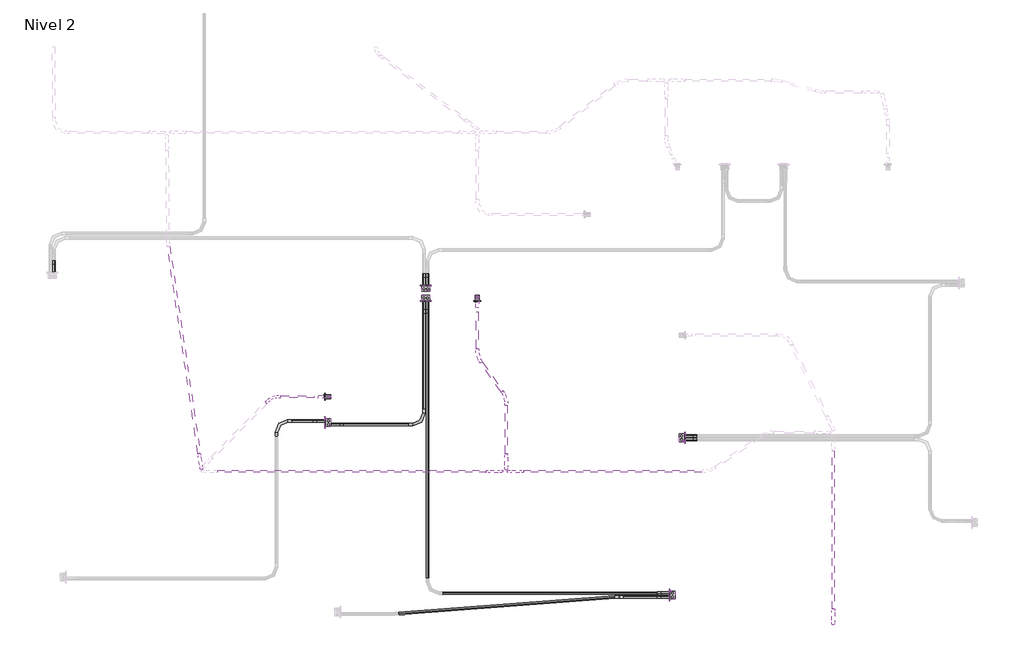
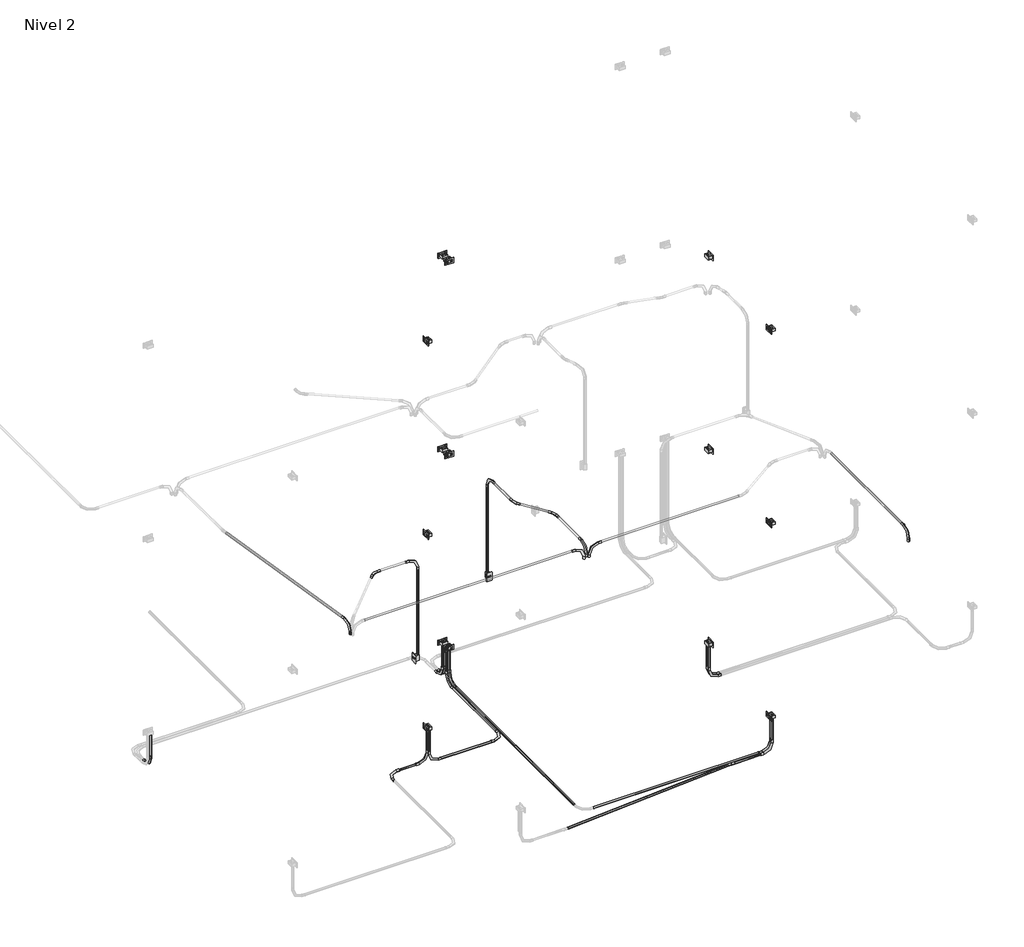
# One storey, part 2 of 10: 28 cable carrier segments, 24 cable carrier fittings, 15 proxies, 2 switching devices.
"""IFC4 building model written with IfcOpenShell, lengths in millimetres."""

from ifc_helpers import new_model, si_unit, point, frame, frame_2d, origin, place, context, project, spatial, circle_curve, trimmed, segment, composite_curve, outline, extrude, transform, mapped, element, save
from components import gfci_180f1b41, m_codo_de_tubo_extremo_liso_pvc_9da73e12, m_codo_de_tubo_extremo_liso_pvc_e945fc89, m_codo_de_tubo_extremo_liso_pvc_102f0f41, m_codo_de_tubo_extremo_liso_pvc_1309d5ab, m_codo_de_tubo_extremo_liso_pvc_280a536f, m_codo_de_tubo_extremo_liso_pvc_f7d6bdcc, switching_device_22fed34b

model = new_model("IFC4")

# Units and contexts
model_context = context("Model", 3, world=origin())
ifc_project = project(units=[si_unit("LENGTHUNIT", "METRE", prefix="MILLI")], contexts=[model_context])

# Site, building, storey
site = spatial("IfcSite", under=ifc_project)
building = spatial("IfcBuilding", under=site)
storey = spatial("IfcBuildingStorey", under=building, Name="Nivel 2", Elevation=2800.0)

# Proxies
placement = place(None, origin())
gfci_shape = gfci_180f1b41(model_context)
element("IfcBuildingElementProxy", 1, Name="Tomacorriente doble 220V : GFCI", ObjectType="Tomacorriente doble 220V : GFCI", at=placement, inside=storey, context=model_context, shape_type="MappedRepresentation", body=[
    mapped(gfci_shape, transform((3741.3351924, 3885.0, 3200.0), x_axis=(0.0, 0.0, 1.0), y_axis=(1.0, 0.0, 0.0), z_axis=(0.0, 1.0, 0.0))),
])
element("IfcBuildingElementProxy", 2, Name="Tomacorriente doble 220V : GFCI", ObjectType="Tomacorriente doble 220V : GFCI", at=placement, inside=storey, context=model_context, shape_type="MappedRepresentation", body=[
    mapped(gfci_shape, transform((3741.7015222, 3735.0, 3200.0), x_axis=(0.0, 0.0, 1.0), y_axis=(-1.0, 0.0, 0.0), z_axis=(0.0, -1.0, 0.0))),
])
element("IfcBuildingElementProxy", 3, Name="Tomacorriente doble 220V : GFCI", ObjectType="Tomacorriente doble 220V : GFCI", at=placement, inside=storey, context=model_context, shape_type="MappedRepresentation", body=[
    mapped(gfci_shape, transform((2735.0, 2514.1638581, 3200.0), x_axis=(0.0, 0.0, 1.0), y_axis=(0.0, 1.0, 0.0), z_axis=(-1.0, 0.0, 0.0))),
])
element("IfcBuildingElementProxy", 4, Name="Tomacorriente doble 220V : GFCI", ObjectType="Tomacorriente doble 220V : GFCI", at=placement, inside=storey, context=model_context, shape_type="MappedRepresentation", body=[
    mapped(gfci_shape, transform((6185.0, 787.0336791, 3200.0), x_axis=(0.0, 0.0, 1.0), y_axis=(0.0, 1.0, 0.0), z_axis=(-1.0, 0.0, 0.0))),
])
element("IfcBuildingElementProxy", 5, Name="Tomacorriente doble 220V : GFCI", ObjectType="Tomacorriente doble 220V : GFCI", at=placement, inside=storey, context=model_context, shape_type="MappedRepresentation", body=[
    mapped(gfci_shape, transform((6335.0, 2362.5600961, 3200.0), x_axis=(0.0, 0.0, 1.0), y_axis=(0.0, -1.0, 0.0), z_axis=(1.0, 0.0, 0.0))),
])
element("IfcBuildingElementProxy", 6, Name="Tomacorriente doble 220V : GFCI", ObjectType="Tomacorriente doble 220V : GFCI", at=placement, inside=storey, context=model_context, shape_type="MappedRepresentation", body=[
    mapped(gfci_shape, transform((3741.3351924, 3885.0, 5850.0), x_axis=(0.0, 0.0, 1.0), y_axis=(1.0, 0.0, 0.0), z_axis=(0.0, 1.0, 0.0))),
])
element("IfcBuildingElementProxy", 7, Name="Tomacorriente doble 220V : GFCI", ObjectType="Tomacorriente doble 220V : GFCI", at=placement, inside=storey, context=model_context, shape_type="MappedRepresentation", body=[
    mapped(gfci_shape, transform((3741.7015222, 3735.0, 5850.0), x_axis=(0.0, 0.0, 1.0), y_axis=(-1.0, 0.0, 0.0), z_axis=(0.0, -1.0, 0.0))),
])
element("IfcBuildingElementProxy", 8, Name="Tomacorriente doble 220V : GFCI", ObjectType="Tomacorriente doble 220V : GFCI", at=placement, inside=storey, context=model_context, shape_type="MappedRepresentation", body=[
    mapped(gfci_shape, transform((2735.0, 2514.1638581, 5850.0), x_axis=(0.0, 0.0, 1.0), y_axis=(0.0, 1.0, 0.0), z_axis=(-1.0, 0.0, 0.0))),
])
element("IfcBuildingElementProxy", 9, Name="Tomacorriente doble 220V : GFCI", ObjectType="Tomacorriente doble 220V : GFCI", at=placement, inside=storey, context=model_context, shape_type="MappedRepresentation", body=[
    mapped(gfci_shape, transform((6185.0, 787.0336791, 5850.0), x_axis=(0.0, 0.0, 1.0), y_axis=(0.0, 1.0, 0.0), z_axis=(-1.0, 0.0, 0.0))),
])
element("IfcBuildingElementProxy", 10, Name="Tomacorriente doble 220V : GFCI", ObjectType="Tomacorriente doble 220V : GFCI", at=placement, inside=storey, context=model_context, shape_type="MappedRepresentation", body=[
    mapped(gfci_shape, transform((6335.0, 2362.5600961, 5850.0), x_axis=(0.0, 0.0, 1.0), y_axis=(0.0, -1.0, 0.0), z_axis=(1.0, 0.0, 0.0))),
])
element("IfcBuildingElementProxy", 11, Name="Tomacorriente doble 220V : GFCI", ObjectType="Tomacorriente doble 220V : GFCI", at=placement, inside=storey, context=model_context, shape_type="MappedRepresentation", body=[
    mapped(gfci_shape, transform((3741.3351924, 3885.0, 8500.0), x_axis=(0.0, 0.0, 1.0), y_axis=(1.0, 0.0, 0.0), z_axis=(0.0, 1.0, 0.0))),
])
element("IfcBuildingElementProxy", 12, Name="Tomacorriente doble 220V : GFCI", ObjectType="Tomacorriente doble 220V : GFCI", at=placement, inside=storey, context=model_context, shape_type="MappedRepresentation", body=[
    mapped(gfci_shape, transform((3741.7015222, 3735.0, 8500.0), x_axis=(0.0, 0.0, 1.0), y_axis=(-1.0, 0.0, 0.0), z_axis=(0.0, -1.0, 0.0))),
])
element("IfcBuildingElementProxy", 13, Name="Tomacorriente doble 220V : GFCI", ObjectType="Tomacorriente doble 220V : GFCI", at=placement, inside=storey, context=model_context, shape_type="MappedRepresentation", body=[
    mapped(gfci_shape, transform((2735.0, 2514.1638581, 8500.0), x_axis=(0.0, 0.0, 1.0), y_axis=(0.0, 1.0, 0.0), z_axis=(-1.0, 0.0, 0.0))),
])
element("IfcBuildingElementProxy", 14, Name="Tomacorriente doble 220V : GFCI", ObjectType="Tomacorriente doble 220V : GFCI", at=placement, inside=storey, context=model_context, shape_type="MappedRepresentation", body=[
    mapped(gfci_shape, transform((6185.0, 787.0336791, 8500.0), x_axis=(0.0, 0.0, 1.0), y_axis=(0.0, 1.0, 0.0), z_axis=(-1.0, 0.0, 0.0))),
])
element("IfcBuildingElementProxy", 15, Name="Tomacorriente doble 220V : GFCI", ObjectType="Tomacorriente doble 220V : GFCI", at=placement, inside=storey, context=model_context, shape_type="MappedRepresentation", body=[
    mapped(gfci_shape, transform((6335.0, 2362.5600961, 8500.0), x_axis=(0.0, 0.0, 1.0), y_axis=(0.0, -1.0, 0.0), z_axis=(1.0, 0.0, 0.0))),
])

# Cable carrier fittings
m_codo_de_tubo_extremo_liso_pvc_shape = m_codo_de_tubo_extremo_liso_pvc_9da73e12(model_context)
element("IfcCableCarrierFitting", 16, ObjectType="M_Codo de tubo - Extremo liso - PVC : CODO POTENCIA", at=placement, inside=storey, context=model_context, shape_type="MappedRepresentation", body=[
    mapped(m_codo_de_tubo_extremo_liso_pvc_shape, transform((6305.3628882, 2344.5282763, 2730.0), x_axis=(0.0, 0.0, -1.0), y_axis=(1.0, 0.0, 0.0), z_axis=(0.0, -1.0, 0.0))),
])
element("IfcCableCarrierFitting", 17, ObjectType="M_Codo de tubo - Extremo liso - PVC : CODO POTENCIA", at=placement, inside=storey, context=model_context, shape_type="MappedRepresentation", body=[
    mapped(m_codo_de_tubo_extremo_liso_pvc_shape, transform((6305.3628882, 2380.5919159, 2730.0), x_axis=(0.0, 0.0, -1.0), y_axis=(1.0, 0.0, 0.0), z_axis=(0.0, -1.0, 0.0))),
])
element("IfcCableCarrierFitting", 18, ObjectType="M_Codo de tubo - Extremo liso - PVC : CODO POTENCIA", at=placement, inside=storey, context=model_context, shape_type="MappedRepresentation", body=[
    mapped(m_codo_de_tubo_extremo_liso_pvc_shape, transform((17.0761068, 3985.3628882, 2730.0), x_axis=(0.0, 0.0, -1.0), y_axis=(0.0, 1.0, 0.0), z_axis=(1.0, 0.0, 0.0))),
])
element("IfcCableCarrierFitting", 19, ObjectType="M_Codo de tubo - Extremo liso - PVC : CODO POTENCIA", at=placement, inside=storey, context=model_context, shape_type="MappedRepresentation", body=[
    mapped(m_codo_de_tubo_extremo_liso_pvc_shape, transform((3759.3670122, 3855.3628882, 2730.0), x_axis=(0.0, 0.0, -1.0), y_axis=(0.0, 1.0, 0.0), z_axis=(1.0, 0.0, 0.0))),
])
element("IfcCableCarrierFitting", 20, ObjectType="M_Codo de tubo - Extremo liso - PVC : CODO POTENCIA", at=placement, inside=storey, context=model_context, shape_type="MappedRepresentation", body=[
    mapped(m_codo_de_tubo_extremo_liso_pvc_shape, transform((3723.3033726, 3855.3628882, 2730.0), x_axis=(0.0, 0.0, -1.0), y_axis=(0.0, 1.0, 0.0), z_axis=(1.0, 0.0, 0.0))),
])
element("IfcCableCarrierFitting", 21, ObjectType="M_Codo de tubo - Extremo liso - PVC : CODO POTENCIA", at=placement, inside=storey, context=model_context, shape_type="MappedRepresentation", body=[
    mapped(m_codo_de_tubo_extremo_liso_pvc_shape, transform((3759.7333421, 3764.6371118, 2730.0), x_axis=(0.0, 0.0, -1.0), y_axis=(0.0, -1.0, 0.0), z_axis=(-1.0, 0.0, 0.0))),
])
element("IfcCableCarrierFitting", 22, ObjectType="M_Codo de tubo - Extremo liso - PVC : CODO POTENCIA", at=placement, inside=storey, context=model_context, shape_type="MappedRepresentation", body=[
    mapped(m_codo_de_tubo_extremo_liso_pvc_shape, transform((3723.6697024, 3764.6371118, 2730.0), x_axis=(0.0, 0.0, -1.0), y_axis=(0.0, -1.0, 0.0), z_axis=(-1.0, 0.0, 0.0))),
])
element("IfcCableCarrierFitting", 23, ObjectType="M_Codo de tubo - Extremo liso - PVC : CODO POTENCIA", at=placement, inside=storey, context=model_context, shape_type="MappedRepresentation", body=[
    mapped(m_codo_de_tubo_extremo_liso_pvc_shape, transform((6214.6371118, 769.0018593, 2730.0), x_axis=(0.0, 0.0, -1.0), y_axis=(-1.0, 0.0, 0.0), z_axis=(0.0, 1.0, 0.0))),
])
element("IfcCableCarrierFitting", 24, ObjectType="M_Codo de tubo - Extremo liso - PVC : CODO POTENCIA", at=placement, inside=storey, context=model_context, shape_type="MappedRepresentation", body=[
    mapped(m_codo_de_tubo_extremo_liso_pvc_shape, transform((2764.6371118, 2532.1956779, 2730.0), x_axis=(0.0, 0.0, -1.0), y_axis=(-1.0, 0.0, 0.0), z_axis=(0.0, 1.0, 0.0))),
])
element("IfcCableCarrierFitting", 25, ObjectType="M_Codo de tubo - Extremo liso - PVC : CODO POTENCIA", at=placement, inside=storey, context=model_context, shape_type="MappedRepresentation", body=[
    mapped(m_codo_de_tubo_extremo_liso_pvc_shape, transform((6214.6371118, 805.065499, 2730.0), x_axis=(0.0, 0.0, -1.0), y_axis=(-1.0, 0.0, 0.0), z_axis=(0.0, 1.0, 0.0))),
])
element("IfcCableCarrierFitting", 26, ObjectType="M_Codo de tubo - Extremo liso - PVC : CODO POTENCIA", at=placement, inside=storey, context=model_context, shape_type="MappedRepresentation", body=[
    mapped(m_codo_de_tubo_extremo_liso_pvc_shape, transform((2245.3628882, 2532.1956779, 2730.0), x_axis=(-1.0, 0.0, 0.0), y_axis=(0.0, -1.0, 0.0), z_axis=(0.0, 0.0, 1.0))),
])
element("IfcCableCarrierFitting", 27, ObjectType="M_Codo de tubo - Extremo liso - PVC : CODO POTENCIA", at=placement, inside=storey, context=model_context, shape_type="MappedRepresentation", body=[
    mapped(m_codo_de_tubo_extremo_liso_pvc_shape, transform((3723.6697024, 2496.1320383, 2730.0), x_axis=(1.0, 0.0, 0.0), y_axis=(0.0, 1.0, 0.0), z_axis=(0.0, 0.0, 1.0))),
])
element("IfcCableCarrierFitting", 28, ObjectType="M_Codo de tubo - Extremo liso - PVC : CODO POTENCIA", at=placement, inside=storey, context=model_context, shape_type="MappedRepresentation", body=[
    mapped(m_codo_de_tubo_extremo_liso_pvc_shape, transform((2764.6371118, 2496.1320383, 2730.0), x_axis=(0.0, 0.0, -1.0), y_axis=(1.0, 0.0, 0.0), z_axis=(0.0, -1.0, 0.0))),
])
m_codo_de_tubo_extremo_liso_pvc_2_shape = m_codo_de_tubo_extremo_liso_pvc_e945fc89(model_context)
element("IfcCableCarrierFitting", 29, ObjectType="M_Codo de tubo - Extremo liso - PVC : CODO POTENCIA", at=placement, inside=storey, context=model_context, shape_type="MappedRepresentation", body=[
    mapped(m_codo_de_tubo_extremo_liso_pvc_2_shape, transform((5679.6371118, 769.0018593, 2730.0), x_axis=(-1.0, 0.0, 0.0), y_axis=(0.0, -1.0, 0.0), z_axis=(0.0, 0.0, 1.0))),
])
element("IfcCableCarrierFitting", 30, ObjectType="M_Codo de tubo - Extremo liso - PVC : CODO ILUMINACION", at=placement, inside=storey, context=model_context, shape_type="MappedRepresentation", body=[
    mapped(m_codo_de_tubo_extremo_liso_pvc_shape, transform((4568.8526659, 2026.1291573, 5350.0), x_axis=(-1.0, 0.0, 0.0), y_axis=(0.0, 0.0, -1.0), z_axis=(0.0, -1.0, 0.0))),
])
element("IfcCableCarrierFitting", 31, ObjectType="M_Codo de tubo - Extremo liso - PVC : CODO ILUMINACION", at=placement, inside=storey, context=model_context, shape_type="MappedRepresentation", body=[
    mapped(m_codo_de_tubo_extremo_liso_pvc_shape, transform((7824.8834206, 498.0975256, 5350.0), x_axis=(0.0, -1.0, 0.0), y_axis=(0.0, 0.0, -1.0), z_axis=(1.0, 0.0, 0.0))),
])
element("IfcCableCarrierFitting", 32, ObjectType="M_Codo de tubo - Extremo liso - PVC : CODO ILUMINACION", at=placement, inside=storey, context=model_context, shape_type="MappedRepresentation", body=[
    mapped(m_codo_de_tubo_extremo_liso_pvc_shape, transform((2778.1388757, 2774.1263967, 5350.0), x_axis=(0.0, 0.0, 1.0), y_axis=(-1.0, 0.0, 0.0), z_axis=(0.0, -1.0, 0.0))),
])
element("IfcCableCarrierFitting", 33, ObjectType="M_Codo de tubo - Extremo liso - PVC : CODO ILUMINACION", at=placement, inside=storey, context=model_context, shape_type="MappedRepresentation", body=[
    mapped(m_codo_de_tubo_extremo_liso_pvc_shape, transform((4547.4329765, 2051.7188091, 5350.0), x_axis=(-0.0017355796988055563, -0.9999984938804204, 0.0), y_axis=(0.0, 0.0, -1.0), z_axis=(0.9999984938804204, -0.0017355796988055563, 0.0))),
])
element("IfcCableCarrierFitting", 34, ObjectType="M_Codo de tubo - Extremo liso - PVC : CODO ILUMINACION", at=placement, inside=storey, context=model_context, shape_type="MappedRepresentation", body=[
    mapped(m_codo_de_tubo_extremo_liso_pvc_shape, transform((4257.4665435, 3778.1388757, 5350.0), x_axis=(0.0, 0.0, 1.0), y_axis=(0.0, -1.0, 0.0), z_axis=(1.0, 0.0, 0.0))),
])
m_codo_de_tubo_extremo_liso_pvc_3_shape = m_codo_de_tubo_extremo_liso_pvc_102f0f41(model_context)
element("IfcCableCarrierFitting", 35, ObjectType="M_Codo de tubo - Extremo liso - PVC : CODO ILUMINACION", at=placement, inside=storey, context=model_context, shape_type="MappedRepresentation", body=[
    mapped(m_codo_de_tubo_extremo_liso_pvc_3_shape, transform((4500.822405, 2026.1291573, 5350.0), x_axis=(1.0, 0.0, 0.0), y_axis=(0.0, 0.0, 1.0), z_axis=(0.0, -1.0, 0.0))),
])
element("IfcCableCarrierFitting", 36, ObjectType="M_Codo de tubo - Extremo liso - PVC : CODO ILUMINACION", at=placement, inside=storey, context=model_context, shape_type="MappedRepresentation", body=[
    mapped(m_codo_de_tubo_extremo_liso_pvc_3_shape, transform((1493.1029204, 2054.3055612, 5350.0), x_axis=(0.145996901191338, -0.9892850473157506, 0.0), y_axis=(0.0, 0.0, 1.0000000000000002), z_axis=(-0.9892850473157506, -0.145996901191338, 0.0))),
])
m_codo_de_tubo_extremo_liso_pvc_4_shape = m_codo_de_tubo_extremo_liso_pvc_1309d5ab(model_context)
element("IfcCableCarrierFitting", 37, ObjectType="M_Codo de tubo - Extremo liso - PVC : CODO ILUMINACION", at=placement, inside=storey, context=model_context, shape_type="MappedRepresentation", body=[
    mapped(m_codo_de_tubo_extremo_liso_pvc_4_shape, transform((2203.0130764, 2774.1263967, 5350.0), x_axis=(-1.0, 0.0, 0.0), y_axis=(0.0, -1.0, 0.0), z_axis=(0.0, 0.0, 1.0))),
])
m_codo_de_tubo_extremo_liso_pvc_5_shape = m_codo_de_tubo_extremo_liso_pvc_280a536f(model_context)
element("IfcCableCarrierFitting", 38, ObjectType="M_Codo de tubo - Extremo liso - PVC : CODO ILUMINACION", at=placement, inside=storey, context=model_context, shape_type="MappedRepresentation", body=[
    mapped(m_codo_de_tubo_extremo_liso_pvc_5_shape, transform((4257.4665435, 3178.1388757, 5350.0), x_axis=(0.0, -1.0, 0.0), y_axis=(1.0, 0.0, 0.0), z_axis=(0.0, 0.0, 1.0))),
])
m_codo_de_tubo_extremo_liso_pvc_6_shape = m_codo_de_tubo_extremo_liso_pvc_f7d6bdcc(model_context)
element("IfcCableCarrierFitting", 39, ObjectType="M_Codo de tubo - Extremo liso - PVC : CODO ILUMINACION", at=placement, inside=storey, context=model_context, shape_type="MappedRepresentation", body=[
    mapped(m_codo_de_tubo_extremo_liso_pvc_6_shape, transform((4548.6694035, 2764.1177362, 5350.0), x_axis=(0.0017355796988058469, 0.9999984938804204, 0.0), y_axis=(-0.9999984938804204, 0.0017355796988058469, 0.0), z_axis=(0.0, 0.0, 1.0))),
])

# Cable carrier segments
element("IfcCableCarrierSegment", 40, ObjectType="PVC-SEL, POTENCIA", at=placement, inside=storey, context=model_context, shape_type="SweptSolid", body=[
    extrude(outline(composite_curve([segment(trimmed(circle_curve(frame_2d((6305.3628882, 2344.5282763)), 11.71), [point((6317.0728882, 2344.5282763))], [point((6305.3628882, 2332.8182763))], False, "CARTESIAN"), True, "CONTINUOUS"), segment(trimmed(circle_curve(frame_2d((6305.3628882, 2344.5282763)), 11.71), [point((6305.3628882, 2332.8182763))], [point((6293.6528882, 2344.5282763))], False, "CARTESIAN"), True, "CONTINUOUS"), segment(trimmed(circle_curve(frame_2d((6305.3628882, 2344.5282763)), 11.71), [point((6293.6528882, 2344.5282763))], [point((6305.3628882, 2356.2382763))], False, "CARTESIAN"), True, "CONTINUOUS"), segment(trimmed(circle_curve(frame_2d((6305.3628882, 2344.5282763)), 11.71), [point((6305.3628882, 2356.2382763))], [point((6317.0728882, 2344.5282763))], False, "CARTESIAN"), True, "CONTINUOUS")], self_intersect=False)), frame((0.0, 0.0, 2882.4), z_axis=(0.0, 0.0, 1.0), x_axis=(1.0, 0.0, 0.0)), (0.0, 0.0, 1.0), 297.3020537),
])
element("IfcCableCarrierSegment", 41, ObjectType="PVC-SEL, POTENCIA", at=placement, inside=storey, context=model_context, shape_type="SweptSolid", body=[
    extrude(outline(composite_curve([segment(trimmed(circle_curve(frame_2d((6305.3628882, 2380.5919159)), 11.71), [point((6317.0728882, 2380.5919159))], [point((6305.3628882, 2368.8819159))], False, "CARTESIAN"), True, "CONTINUOUS"), segment(trimmed(circle_curve(frame_2d((6305.3628882, 2380.5919159)), 11.71), [point((6305.3628882, 2368.8819159))], [point((6293.6528882, 2380.5919159))], False, "CARTESIAN"), True, "CONTINUOUS"), segment(trimmed(circle_curve(frame_2d((6305.3628882, 2380.5919159)), 11.71), [point((6293.6528882, 2380.5919159))], [point((6305.3628882, 2392.3019159))], False, "CARTESIAN"), True, "CONTINUOUS"), segment(trimmed(circle_curve(frame_2d((6305.3628882, 2380.5919159)), 11.71), [point((6305.3628882, 2392.3019159))], [point((6317.0728882, 2380.5919159))], False, "CARTESIAN"), True, "CONTINUOUS")], self_intersect=False)), frame((0.0, 0.0, 2882.4), z_axis=(0.0, 0.0, 1.0), x_axis=(1.0, 0.0, 0.0)), (0.0, 0.0, 1.0), 297.3020537),
])
element("IfcCableCarrierSegment", 42, ObjectType="PVC-SEL, POTENCIA", at=placement, inside=storey, context=model_context, shape_type="SweptSolid", body=[
    extrude(outline(composite_curve([segment(trimmed(circle_curve(frame_2d((17.0761068, 3985.3628882)), 11.71), [point((28.7861068, 3985.3628882))], [point((17.0761068, 3973.6528882))], False, "CARTESIAN"), True, "CONTINUOUS"), segment(trimmed(circle_curve(frame_2d((17.0761068, 3985.3628882)), 11.71), [point((17.0761068, 3973.6528882))], [point((5.3661068, 3985.3628882))], False, "CARTESIAN"), True, "CONTINUOUS"), segment(trimmed(circle_curve(frame_2d((17.0761068, 3985.3628882)), 11.71), [point((5.3661068, 3985.3628882))], [point((17.0761068, 3997.0728882))], False, "CARTESIAN"), True, "CONTINUOUS"), segment(trimmed(circle_curve(frame_2d((17.0761068, 3985.3628882)), 11.71), [point((17.0761068, 3997.0728882))], [point((28.7861068, 3985.3628882))], False, "CARTESIAN"), True, "CONTINUOUS")], self_intersect=False)), frame((0.0, 0.0, 2882.4), z_axis=(0.0, 0.0, 1.0), x_axis=(1.0, 0.0, 0.0)), (0.0, 0.0, 1.0), 297.3020537),
])
element("IfcCableCarrierSegment", 43, ObjectType="PVC-SEL, POTENCIA", at=placement, inside=storey, context=model_context, shape_type="SweptSolid", body=[
    extrude(outline(composite_curve([segment(trimmed(circle_curve(frame_2d((3759.3670122, 3855.3628882)), 11.71), [point((3771.0770122, 3855.3628882))], [point((3759.3670122, 3843.6528882))], False, "CARTESIAN"), True, "CONTINUOUS"), segment(trimmed(circle_curve(frame_2d((3759.3670122, 3855.3628882)), 11.71), [point((3759.3670122, 3843.6528882))], [point((3747.6570122, 3855.3628882))], False, "CARTESIAN"), True, "CONTINUOUS"), segment(trimmed(circle_curve(frame_2d((3759.3670122, 3855.3628882)), 11.71), [point((3747.6570122, 3855.3628882))], [point((3759.3670122, 3867.0728882))], False, "CARTESIAN"), True, "CONTINUOUS"), segment(trimmed(circle_curve(frame_2d((3759.3670122, 3855.3628882)), 11.71), [point((3759.3670122, 3867.0728882))], [point((3771.0770122, 3855.3628882))], False, "CARTESIAN"), True, "CONTINUOUS")], self_intersect=False)), frame((0.0, 0.0, 2882.4), z_axis=(0.0, 0.0, 1.0), x_axis=(1.0, 0.0, 0.0)), (0.0, 0.0, 1.0), 297.3020537),
])
element("IfcCableCarrierSegment", 44, ObjectType="PVC-SEL, POTENCIA", at=placement, inside=storey, context=model_context, shape_type="SweptSolid", body=[
    extrude(outline(composite_curve([segment(trimmed(circle_curve(frame_2d((3723.3033726, 3855.3628882)), 11.71), [point((3735.0133726, 3855.3628882))], [point((3723.3033726, 3843.6528882))], False, "CARTESIAN"), True, "CONTINUOUS"), segment(trimmed(circle_curve(frame_2d((3723.3033726, 3855.3628882)), 11.71), [point((3723.3033726, 3843.6528882))], [point((3711.5933726, 3855.3628882))], False, "CARTESIAN"), True, "CONTINUOUS"), segment(trimmed(circle_curve(frame_2d((3723.3033726, 3855.3628882)), 11.71), [point((3711.5933726, 3855.3628882))], [point((3723.3033726, 3867.0728882))], False, "CARTESIAN"), True, "CONTINUOUS"), segment(trimmed(circle_curve(frame_2d((3723.3033726, 3855.3628882)), 11.71), [point((3723.3033726, 3867.0728882))], [point((3735.0133726, 3855.3628882))], False, "CARTESIAN"), True, "CONTINUOUS")], self_intersect=False)), frame((0.0, 0.0, 2882.4), z_axis=(0.0, 0.0, 1.0), x_axis=(1.0, 0.0, 0.0)), (0.0, 0.0, 1.0), 297.3020537),
])
element("IfcCableCarrierSegment", 45, ObjectType="PVC-SEL, POTENCIA", at=placement, inside=storey, context=model_context, shape_type="SweptSolid", body=[
    extrude(outline(composite_curve([segment(trimmed(circle_curve(frame_2d((2730.0, 3759.7333421)), 11.71), [point((2730.0, 3748.0233421))], [point((2718.29, 3759.7333421))], False, "CARTESIAN"), True, "CONTINUOUS"), segment(trimmed(circle_curve(frame_2d((2730.0, 3759.7333421)), 11.71), [point((2718.29, 3759.7333421))], [point((2730.0, 3771.4433421))], False, "CARTESIAN"), True, "CONTINUOUS"), segment(trimmed(circle_curve(frame_2d((2730.0, 3759.7333421)), 11.71), [point((2730.0, 3771.4433421))], [point((2741.71, 3759.7333421))], False, "CARTESIAN"), True, "CONTINUOUS"), segment(trimmed(circle_curve(frame_2d((2730.0, 3759.7333421)), 11.71), [point((2741.71, 3759.7333421))], [point((2730.0, 3748.0233421))], False, "CARTESIAN"), True, "CONTINUOUS")], self_intersect=False)), frame((0.0, 957.465499, 0.0), z_axis=(0.0, 1.0, 0.0), x_axis=(0.0, 0.0, 1.0)), (0.0, 0.0, 1.0), 2654.7716128),
])
element("IfcCableCarrierSegment", 46, ObjectType="PVC-SEL, POTENCIA", at=placement, inside=storey, context=model_context, shape_type="SweptSolid", body=[
    extrude(outline(composite_curve([segment(trimmed(circle_curve(frame_2d((3759.7333421, 3764.6371118)), 11.71), [point((3771.4433421, 3764.6371118))], [point((3759.7333421, 3752.9271118))], False, "CARTESIAN"), True, "CONTINUOUS"), segment(trimmed(circle_curve(frame_2d((3759.7333421, 3764.6371118)), 11.71), [point((3759.7333421, 3752.9271118))], [point((3748.0233421, 3764.6371118))], False, "CARTESIAN"), True, "CONTINUOUS"), segment(trimmed(circle_curve(frame_2d((3759.7333421, 3764.6371118)), 11.71), [point((3748.0233421, 3764.6371118))], [point((3759.7333421, 3776.3471118))], False, "CARTESIAN"), True, "CONTINUOUS"), segment(trimmed(circle_curve(frame_2d((3759.7333421, 3764.6371118)), 11.71), [point((3759.7333421, 3776.3471118))], [point((3771.4433421, 3764.6371118))], False, "CARTESIAN"), True, "CONTINUOUS")], self_intersect=False)), frame((0.0, 0.0, 2882.4), z_axis=(0.0, 0.0, 1.0), x_axis=(1.0, 0.0, 0.0)), (0.0, 0.0, 1.0), 297.3020537),
])
element("IfcCableCarrierSegment", 47, ObjectType="PVC-SEL, POTENCIA", at=placement, inside=storey, context=model_context, shape_type="SweptSolid", body=[
    extrude(outline(composite_curve([segment(trimmed(circle_curve(frame_2d((2730.0, 3723.6697024)), 11.71), [point((2730.0, 3711.9597024))], [point((2718.29, 3723.6697024))], False, "CARTESIAN"), True, "CONTINUOUS"), segment(trimmed(circle_curve(frame_2d((2730.0, 3723.6697024)), 11.71), [point((2718.29, 3723.6697024))], [point((2730.0, 3735.3797024))], False, "CARTESIAN"), True, "CONTINUOUS"), segment(trimmed(circle_curve(frame_2d((2730.0, 3723.6697024)), 11.71), [point((2730.0, 3735.3797024))], [point((2741.71, 3723.6697024))], False, "CARTESIAN"), True, "CONTINUOUS"), segment(trimmed(circle_curve(frame_2d((2730.0, 3723.6697024)), 11.71), [point((2741.71, 3723.6697024))], [point((2730.0, 3711.9597024))], False, "CARTESIAN"), True, "CONTINUOUS")], self_intersect=False)), frame((0.0, 2648.5320383, 0.0), z_axis=(0.0, 1.0, 0.0), x_axis=(0.0, 0.0, 1.0)), (0.0, 0.0, 1.0), 963.7050735),
])
element("IfcCableCarrierSegment", 48, ObjectType="PVC-SEL, POTENCIA", at=placement, inside=storey, context=model_context, shape_type="SweptSolid", body=[
    extrude(outline(composite_curve([segment(trimmed(circle_curve(frame_2d((3723.6697024, 3764.6371118)), 11.71), [point((3735.3797024, 3764.6371118))], [point((3723.6697024, 3752.9271118))], False, "CARTESIAN"), True, "CONTINUOUS"), segment(trimmed(circle_curve(frame_2d((3723.6697024, 3764.6371118)), 11.71), [point((3723.6697024, 3752.9271118))], [point((3711.9597024, 3764.6371118))], False, "CARTESIAN"), True, "CONTINUOUS"), segment(trimmed(circle_curve(frame_2d((3723.6697024, 3764.6371118)), 11.71), [point((3711.9597024, 3764.6371118))], [point((3723.6697024, 3776.3471118))], False, "CARTESIAN"), True, "CONTINUOUS"), segment(trimmed(circle_curve(frame_2d((3723.6697024, 3764.6371118)), 11.71), [point((3723.6697024, 3776.3471118))], [point((3735.3797024, 3764.6371118))], False, "CARTESIAN"), True, "CONTINUOUS")], self_intersect=False)), frame((0.0, 0.0, 2882.4), z_axis=(0.0, 0.0, 1.0), x_axis=(1.0, 0.0, 0.0)), (0.0, 0.0, 1.0), 297.3020537),
])
element("IfcCableCarrierSegment", 49, ObjectType="PVC-SEL, POTENCIA", at=placement, inside=storey, context=model_context, shape_type="SweptSolid", body=[
    extrude(outline(composite_curve([segment(trimmed(circle_curve(frame_2d((769.0018593, 2730.0)), 11.71), [point((780.7118593, 2730.0))], [point((769.0018593, 2718.29))], False, "CARTESIAN"), True, "CONTINUOUS"), segment(trimmed(circle_curve(frame_2d((769.0018593, 2730.0)), 11.71), [point((769.0018593, 2718.29))], [point((757.2918593, 2730.0))], False, "CARTESIAN"), True, "CONTINUOUS"), segment(trimmed(circle_curve(frame_2d((769.0018593, 2730.0)), 11.71), [point((757.2918593, 2730.0))], [point((769.0018593, 2741.71))], False, "CARTESIAN"), True, "CONTINUOUS"), segment(trimmed(circle_curve(frame_2d((769.0018593, 2730.0)), 11.71), [point((769.0018593, 2741.71))], [point((780.7118593, 2730.0))], False, "CARTESIAN"), True, "CONTINUOUS")], self_intersect=False)), frame((5722.0516109, 0.0, 0.0), z_axis=(1.0, 0.0, 0.0), x_axis=(0.0, 1.0, 0.0)), (0.0, 0.0, 1.0), 340.1855008),
])
element("IfcCableCarrierSegment", 50, ObjectType="PVC-SEL, POTENCIA", at=placement, inside=storey, context=model_context, shape_type="SweptSolid", body=[
    extrude(outline(composite_curve([segment(trimmed(circle_curve(frame_2d((6214.6371118, 769.0018593)), 11.71), [point((6226.3471118, 769.0018593))], [point((6214.6371118, 757.2918593))], False, "CARTESIAN"), True, "CONTINUOUS"), segment(trimmed(circle_curve(frame_2d((6214.6371118, 769.0018593)), 11.71), [point((6214.6371118, 757.2918593))], [point((6202.9271118, 769.0018593))], False, "CARTESIAN"), True, "CONTINUOUS"), segment(trimmed(circle_curve(frame_2d((6214.6371118, 769.0018593)), 11.71), [point((6202.9271118, 769.0018593))], [point((6214.6371118, 780.7118593))], False, "CARTESIAN"), True, "CONTINUOUS"), segment(trimmed(circle_curve(frame_2d((6214.6371118, 769.0018593)), 11.71), [point((6214.6371118, 780.7118593))], [point((6226.3471118, 769.0018593))], False, "CARTESIAN"), True, "CONTINUOUS")], self_intersect=False)), frame((0.0, 0.0, 2882.4), z_axis=(0.0, 0.0, 1.0), x_axis=(1.0, 0.0, 0.0)), (0.0, 0.0, 1.0), 297.3020537),
])
element("IfcCableCarrierSegment", 51, ObjectType="PVC-SEL, POTENCIA", at=placement, inside=storey, context=model_context, shape_type="SweptSolid", body=[
    extrude(outline(composite_curve([segment(trimmed(circle_curve(frame_2d((805.065499, 2730.0)), 11.71), [point((793.355499, 2730.0))], [point((805.065499, 2741.71))], False, "CARTESIAN"), True, "CONTINUOUS"), segment(trimmed(circle_curve(frame_2d((805.065499, 2730.0)), 11.71), [point((805.065499, 2741.71))], [point((816.775499, 2730.0))], False, "CARTESIAN"), True, "CONTINUOUS"), segment(trimmed(circle_curve(frame_2d((805.065499, 2730.0)), 11.71), [point((816.775499, 2730.0))], [point((805.065499, 2718.29))], False, "CARTESIAN"), True, "CONTINUOUS"), segment(trimmed(circle_curve(frame_2d((805.065499, 2730.0)), 11.71), [point((805.065499, 2718.29))], [point((793.355499, 2730.0))], False, "CARTESIAN"), True, "CONTINUOUS")], self_intersect=False)), frame((3912.1333421, 0.0, 0.0), z_axis=(1.0, 0.0, 0.0), x_axis=(0.0, 1.0, 0.0)), (0.0, 0.0, 1.0), 2150.1037697),
])
element("IfcCableCarrierSegment", 52, ObjectType="PVC-SEL, POTENCIA", at=placement, inside=storey, context=model_context, shape_type="SweptSolid", body=[
    extrude(outline(composite_curve([segment(trimmed(circle_curve(frame_2d((6214.6371118, 805.065499)), 11.71), [point((6226.3471118, 805.065499))], [point((6214.6371118, 793.355499))], False, "CARTESIAN"), True, "CONTINUOUS"), segment(trimmed(circle_curve(frame_2d((6214.6371118, 805.065499)), 11.71), [point((6214.6371118, 793.355499))], [point((6202.9271118, 805.065499))], False, "CARTESIAN"), True, "CONTINUOUS"), segment(trimmed(circle_curve(frame_2d((6214.6371118, 805.065499)), 11.71), [point((6202.9271118, 805.065499))], [point((6214.6371118, 816.775499))], False, "CARTESIAN"), True, "CONTINUOUS"), segment(trimmed(circle_curve(frame_2d((6214.6371118, 805.065499)), 11.71), [point((6214.6371118, 816.775499))], [point((6226.3471118, 805.065499))], False, "CARTESIAN"), True, "CONTINUOUS")], self_intersect=False)), frame((0.0, 0.0, 2882.4), z_axis=(0.0, 0.0, 1.0), x_axis=(1.0, 0.0, 0.0)), (0.0, 0.0, 1.0), 297.3020537),
])
element("IfcCableCarrierSegment", 53, ObjectType="PVC-SEL, POTENCIA", at=placement, inside=storey, context=model_context, shape_type="SweptSolid", body=[
    extrude(outline(composite_curve([segment(trimmed(circle_curve(frame_2d((2496.1320383, 2730.0)), 11.71), [point((2507.8420383, 2730.0))], [point((2496.1320383, 2718.29))], False, "CARTESIAN"), True, "CONTINUOUS"), segment(trimmed(circle_curve(frame_2d((2496.1320383, 2730.0)), 11.71), [point((2496.1320383, 2718.29))], [point((2484.4220383, 2730.0))], False, "CARTESIAN"), True, "CONTINUOUS"), segment(trimmed(circle_curve(frame_2d((2496.1320383, 2730.0)), 11.71), [point((2484.4220383, 2730.0))], [point((2496.1320383, 2741.71))], False, "CARTESIAN"), True, "CONTINUOUS"), segment(trimmed(circle_curve(frame_2d((2496.1320383, 2730.0)), 11.71), [point((2496.1320383, 2741.71))], [point((2507.8420383, 2730.0))], False, "CARTESIAN"), True, "CONTINUOUS")], self_intersect=False)), frame((2917.0371118, 0.0, 0.0), z_axis=(1.0, 0.0, 0.0), x_axis=(0.0, 1.0, 0.0)), (0.0, 0.0, 1.0), 654.2325906),
])
element("IfcCableCarrierSegment", 54, ObjectType="PVC-SEL, POTENCIA", at=placement, inside=storey, context=model_context, shape_type="SweptSolid", body=[
    extrude(outline(composite_curve([segment(trimmed(circle_curve(frame_2d((2764.6371118, 2496.1320383)), 11.71), [point((2776.3471118, 2496.1320383))], [point((2764.6371118, 2484.4220383))], False, "CARTESIAN"), True, "CONTINUOUS"), segment(trimmed(circle_curve(frame_2d((2764.6371118, 2496.1320383)), 11.71), [point((2764.6371118, 2484.4220383))], [point((2752.9271118, 2496.1320383))], False, "CARTESIAN"), True, "CONTINUOUS"), segment(trimmed(circle_curve(frame_2d((2764.6371118, 2496.1320383)), 11.71), [point((2752.9271118, 2496.1320383))], [point((2764.6371118, 2507.8420383))], False, "CARTESIAN"), True, "CONTINUOUS"), segment(trimmed(circle_curve(frame_2d((2764.6371118, 2496.1320383)), 11.71), [point((2764.6371118, 2507.8420383))], [point((2776.3471118, 2496.1320383))], False, "CARTESIAN"), True, "CONTINUOUS")], self_intersect=False)), frame((0.0, 0.0, 2882.4), z_axis=(0.0, 0.0, 1.0), x_axis=(1.0, 0.0, 0.0)), (0.0, 0.0, 1.0), 297.3020537),
])
element("IfcCableCarrierSegment", 55, ObjectType="PVC-SEL, POTENCIA", at=placement, inside=storey, context=model_context, shape_type="SweptSolid", body=[
    extrude(outline(composite_curve([segment(trimmed(circle_curve(frame_2d((2532.1956779, 2730.0)), 11.71), [point((2543.9056779, 2730.0))], [point((2532.1956779, 2718.29))], False, "CARTESIAN"), True, "CONTINUOUS"), segment(trimmed(circle_curve(frame_2d((2532.1956779, 2730.0)), 11.71), [point((2532.1956779, 2718.29))], [point((2520.4856779, 2730.0))], False, "CARTESIAN"), True, "CONTINUOUS"), segment(trimmed(circle_curve(frame_2d((2532.1956779, 2730.0)), 11.71), [point((2520.4856779, 2730.0))], [point((2532.1956779, 2741.71))], False, "CARTESIAN"), True, "CONTINUOUS"), segment(trimmed(circle_curve(frame_2d((2532.1956779, 2730.0)), 11.71), [point((2532.1956779, 2741.71))], [point((2543.9056779, 2730.0))], False, "CARTESIAN"), True, "CONTINUOUS")], self_intersect=False)), frame((2397.7628882, 0.0, 0.0), z_axis=(1.0, 0.0, 0.0), x_axis=(0.0, 1.0, 0.0)), (0.0, 0.0, 1.0), 214.4742236),
])
element("IfcCableCarrierSegment", 56, ObjectType="PVC-SEL, POTENCIA", at=placement, inside=storey, context=model_context, shape_type="SweptSolid", body=[
    extrude(outline(composite_curve([segment(trimmed(circle_curve(frame_2d((2764.6371118, 2532.1956779)), 11.71), [point((2776.3471118, 2532.1956779))], [point((2764.6371118, 2520.4856779))], False, "CARTESIAN"), True, "CONTINUOUS"), segment(trimmed(circle_curve(frame_2d((2764.6371118, 2532.1956779)), 11.71), [point((2764.6371118, 2520.4856779))], [point((2752.9271118, 2532.1956779))], False, "CARTESIAN"), True, "CONTINUOUS"), segment(trimmed(circle_curve(frame_2d((2764.6371118, 2532.1956779)), 11.71), [point((2752.9271118, 2532.1956779))], [point((2764.6371118, 2543.9056779))], False, "CARTESIAN"), True, "CONTINUOUS"), segment(trimmed(circle_curve(frame_2d((2764.6371118, 2532.1956779)), 11.71), [point((2764.6371118, 2543.9056779))], [point((2776.3471118, 2532.1956779))], False, "CARTESIAN"), True, "CONTINUOUS")], self_intersect=False)), frame((0.0, 0.0, 2882.4), z_axis=(0.0, 0.0, 1.0), x_axis=(1.0, 0.0, 0.0)), (0.0, 0.0, 1.0), 297.3020537),
])
element("IfcCableCarrierSegment", 57, ObjectType="PVC-SEL, POTENCIA", at=placement, inside=storey, context=model_context, shape_type="SweptSolid", body=[
    extrude(outline(composite_curve([segment(trimmed(circle_curve(frame_2d((0.0, -11.71)), 11.71), [point((-11.71, -11.71))], [point((0.0, 0.0))], False, "CARTESIAN"), True, "CONTINUOUS"), segment(trimmed(circle_curve(frame_2d((0.0, -11.71)), 11.71), [point((0.0, 0.0))], [point((11.7099999, -11.71))], False, "CARTESIAN"), True, "CONTINUOUS"), segment(trimmed(circle_curve(frame_2d((0.0, -11.71)), 11.71), [point((11.7099999, -11.71))], [point((0.0, -23.42))], False, "CARTESIAN"), True, "CONTINUOUS"), segment(trimmed(circle_curve(frame_2d((0.0, -11.71)), 11.71), [point((0.0, -23.42))], [point((-11.71, -11.71))], False, "CARTESIAN"), True, "CONTINUOUS")], self_intersect=False)), frame((3467.656691, 601.7716714, 2718.29), z_axis=(0.9971543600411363, 0.07538688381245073, 0.0), x_axis=(0.07538688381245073, -0.9971543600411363, 0.0)), (0.0, 0.0, 1.0), 2175.8783845),
])
element("IfcCableCarrierSegment", 58, ObjectType="PVC-SEL ILUMINACION", at=placement, inside=storey, context=model_context, shape_type="SweptSolid", body=[
    extrude(outline(composite_curve([segment(trimmed(circle_curve(frame_2d((2026.1291573, 5350.0)), 11.71), [point((2014.4191573, 5350.0))], [point((2026.1291573, 5361.71))], False, "CARTESIAN"), True, "CONTINUOUS"), segment(trimmed(circle_curve(frame_2d((2026.1291573, 5350.0)), 11.71), [point((2026.1291573, 5361.71))], [point((2037.8391573, 5350.0))], False, "CARTESIAN"), True, "CONTINUOUS"), segment(trimmed(circle_curve(frame_2d((2026.1291573, 5350.0)), 11.71), [point((2037.8391573, 5350.0))], [point((2026.1291573, 5338.29))], False, "CARTESIAN"), True, "CONTINUOUS"), segment(trimmed(circle_curve(frame_2d((2026.1291573, 5350.0)), 11.71), [point((2026.1291573, 5338.29))], [point((2014.4191573, 5350.0))], False, "CARTESIAN"), True, "CONTINUOUS")], self_intersect=False)), frame((4721.2526659, 0.0, 0.0), z_axis=(1.0, 0.0, 0.0), x_axis=(0.0, 1.0, 0.0)), (0.0, 0.0, 1.0), 1786.7061001),
])
element("IfcCableCarrierSegment", 59, ObjectType="PVC-SEL ILUMINACION", at=placement, inside=storey, context=model_context, shape_type="SweptSolid", body=[
    extrude(outline(composite_curve([segment(trimmed(circle_curve(frame_2d((5350.0, 7824.8834206)), 11.71), [point((5350.0, 7836.5934206))], [point((5361.71, 7824.8834206))], False, "CARTESIAN"), True, "CONTINUOUS"), segment(trimmed(circle_curve(frame_2d((5350.0, 7824.8834206)), 11.71), [point((5361.71, 7824.8834206))], [point((5350.0, 7813.1734206))], False, "CARTESIAN"), True, "CONTINUOUS"), segment(trimmed(circle_curve(frame_2d((5350.0, 7824.8834206)), 11.71), [point((5350.0, 7813.1734206))], [point((5338.29, 7824.8834206))], False, "CARTESIAN"), True, "CONTINUOUS"), segment(trimmed(circle_curve(frame_2d((5350.0, 7824.8834206)), 11.71), [point((5338.29, 7824.8834206))], [point((5350.0, 7836.5934206))], False, "CARTESIAN"), True, "CONTINUOUS")], self_intersect=False)), frame((0.0, 650.4975256, 0.0), z_axis=(0.0, 1.0, 0.0), x_axis=(0.0, 0.0, 1.0)), (0.0, 0.0, 1.0), 1582.6103102),
])
element("IfcCableCarrierSegment", 60, ObjectType="PVC-SEL ILUMINACION", at=placement, inside=storey, context=model_context, shape_type="SweptSolid", body=[
    extrude(outline(composite_curve([segment(trimmed(circle_curve(frame_2d((2026.1291573, 5350.0)), 11.71), [point((2037.8391573, 5350.0))], [point((2026.1291573, 5338.29))], False, "CARTESIAN"), True, "CONTINUOUS"), segment(trimmed(circle_curve(frame_2d((2026.1291573, 5350.0)), 11.71), [point((2026.1291573, 5338.29))], [point((2014.4191573, 5350.0))], False, "CARTESIAN"), True, "CONTINUOUS"), segment(trimmed(circle_curve(frame_2d((2026.1291573, 5350.0)), 11.71), [point((2014.4191573, 5350.0))], [point((2026.1291573, 5361.71))], False, "CARTESIAN"), True, "CONTINUOUS"), segment(trimmed(circle_curve(frame_2d((2026.1291573, 5350.0)), 11.71), [point((2026.1291573, 5361.71))], [point((2037.8391573, 5350.0))], False, "CARTESIAN"), True, "CONTINUOUS")], self_intersect=False)), frame((1656.9487012, 0.0, 0.0), z_axis=(1.0, 0.0, 0.0), x_axis=(0.0, 1.0, 0.0)), (0.0, 0.0, 1.0), 2691.4737038),
])
element("IfcCableCarrierSegment", 61, ObjectType="PVC-SEL ILUMINACION", at=placement, inside=storey, context=model_context, shape_type="SweptSolid", body=[
    extrude(outline(composite_curve([segment(trimmed(circle_curve(frame_2d((2774.1263967, 5350.0)), 11.71), [point((2762.4163967, 5350.0))], [point((2774.1263967, 5361.71))], False, "CARTESIAN"), True, "CONTINUOUS"), segment(trimmed(circle_curve(frame_2d((2774.1263967, 5350.0)), 11.71), [point((2774.1263967, 5361.71))], [point((2785.8363967, 5350.0))], False, "CARTESIAN"), True, "CONTINUOUS"), segment(trimmed(circle_curve(frame_2d((2774.1263967, 5350.0)), 11.71), [point((2785.8363967, 5350.0))], [point((2774.1263967, 5338.29))], False, "CARTESIAN"), True, "CONTINUOUS"), segment(trimmed(circle_curve(frame_2d((2774.1263967, 5350.0)), 11.71), [point((2774.1263967, 5338.29))], [point((2762.4163967, 5350.0))], False, "CARTESIAN"), True, "CONTINUOUS")], self_intersect=False)), frame((2288.9199561, 0.0, 0.0), z_axis=(1.0, 0.0, 0.0), x_axis=(0.0, 1.0, 0.0)), (0.0, 0.0, 1.0), 336.8189196),
])
element("IfcCableCarrierSegment", 62, ObjectType="PVC-SEL ILUMINACION", at=placement, inside=storey, context=model_context, shape_type="SweptSolid", body=[
    extrude(outline(composite_curve([segment(trimmed(circle_curve(frame_2d((2778.1388757, 2774.1263967)), 11.71), [point((2766.4288757, 2774.1263967))], [point((2778.1388757, 2785.8363967))], False, "CARTESIAN"), True, "CONTINUOUS"), segment(trimmed(circle_curve(frame_2d((2778.1388757, 2774.1263967)), 11.71), [point((2778.1388757, 2785.8363967))], [point((2789.8488757, 2774.1263967))], False, "CARTESIAN"), True, "CONTINUOUS"), segment(trimmed(circle_curve(frame_2d((2778.1388757, 2774.1263967)), 11.71), [point((2789.8488757, 2774.1263967))], [point((2778.1388757, 2762.4163967))], False, "CARTESIAN"), True, "CONTINUOUS"), segment(trimmed(circle_curve(frame_2d((2778.1388757, 2774.1263967)), 11.71), [point((2778.1388757, 2762.4163967))], [point((2766.4288757, 2774.1263967))], False, "CARTESIAN"), True, "CONTINUOUS")], self_intersect=False)), frame((0.0, 0.0, 4040.2227463), z_axis=(0.0, 0.0, 1.0), x_axis=(1.0, 0.0, 0.0)), (0.0, 0.0, 1.0), 1157.3772537),
])
element("IfcCableCarrierSegment", 63, ObjectType="PVC-SEL ILUMINACION", at=placement, inside=storey, context=model_context, shape_type="SweptSolid", body=[
    extrude(outline(composite_curve([segment(trimmed(circle_curve(frame_2d((0.0, 11.7099999)), 11.71), [point((0.0, 23.42))], [point((11.71, 11.7099999))], False, "CARTESIAN"), True, "CONTINUOUS"), segment(trimmed(circle_curve(frame_2d((0.0, 11.7099999)), 11.71), [point((11.71, 11.7099999))], [point((0.0, 0.0))], False, "CARTESIAN"), True, "CONTINUOUS"), segment(trimmed(circle_curve(frame_2d((0.0, 11.7099999)), 11.71), [point((0.0, 0.0))], [point((-11.71, 11.7099999))], False, "CARTESIAN"), True, "CONTINUOUS"), segment(trimmed(circle_curve(frame_2d((0.0, 11.7099999)), 11.71), [point((-11.71, 11.7099999))], [point((0.0, 23.42))], False, "CARTESIAN"), True, "CONTINUOUS")], self_intersect=False)), frame((4535.9874965, 2204.1389032, 5350.0), z_axis=(0.001735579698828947, 0.9999984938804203, 0.0), x_axis=(0.0, 0.0, 1.0)), (0.0, 0.0, 1.0), 485.6197495),
])
element("IfcCableCarrierSegment", 64, ObjectType="PVC-SEL ILUMINACION", at=placement, inside=storey, context=model_context, shape_type="SweptSolid", body=[
    extrude(outline(composite_curve([segment(trimmed(circle_curve(frame_2d((5350.0, 4257.4665435)), 11.71), [point((5350.0, 4245.7565435))], [point((5338.29, 4257.4665435))], False, "CARTESIAN"), True, "CONTINUOUS"), segment(trimmed(circle_curve(frame_2d((5350.0, 4257.4665435)), 11.71), [point((5338.29, 4257.4665435))], [point((5350.0, 4269.1765435))], False, "CARTESIAN"), True, "CONTINUOUS"), segment(trimmed(circle_curve(frame_2d((5350.0, 4257.4665435)), 11.71), [point((5350.0, 4269.1765435))], [point((5361.71, 4257.4665435))], False, "CARTESIAN"), True, "CONTINUOUS"), segment(trimmed(circle_curve(frame_2d((5350.0, 4257.4665435)), 11.71), [point((5361.71, 4257.4665435))], [point((5350.0, 4245.7565435))], False, "CARTESIAN"), True, "CONTINUOUS")], self_intersect=False)), frame((0.0, 3252.4099745, 0.0), z_axis=(0.0, 1.0, 0.0), x_axis=(0.0, 0.0, 1.0)), (0.0, 0.0, 1.0), 373.3289012),
])
element("IfcCableCarrierSegment", 65, ObjectType="PVC-SEL ILUMINACION", at=placement, inside=storey, context=model_context, shape_type="SweptSolid", body=[
    extrude(outline(composite_curve([segment(trimmed(circle_curve(frame_2d((4257.4665435, 3778.1388757)), 11.71), [point((4245.7565435, 3778.1388757))], [point((4257.4665435, 3789.8488757))], False, "CARTESIAN"), True, "CONTINUOUS"), segment(trimmed(circle_curve(frame_2d((4257.4665435, 3778.1388757)), 11.71), [point((4257.4665435, 3789.8488757))], [point((4269.1765435, 3778.1388757))], False, "CARTESIAN"), True, "CONTINUOUS"), segment(trimmed(circle_curve(frame_2d((4257.4665435, 3778.1388757)), 11.71), [point((4269.1765435, 3778.1388757))], [point((4257.4665435, 3766.4288757))], False, "CARTESIAN"), True, "CONTINUOUS"), segment(trimmed(circle_curve(frame_2d((4257.4665435, 3778.1388757)), 11.71), [point((4257.4665435, 3766.4288757))], [point((4245.7565435, 3778.1388757))], False, "CARTESIAN"), True, "CONTINUOUS")], self_intersect=False)), frame((0.0, 0.0, 4040.2227463), z_axis=(0.0, 0.0, 1.0), x_axis=(1.0, 0.0, 0.0)), (0.0, 0.0, 1.0), 1157.3772537),
])
element("IfcCableCarrierSegment", 66, ObjectType="PVC-SEL ILUMINACION", at=placement, inside=storey, context=model_context, shape_type="SweptSolid", body=[
    extrude(outline(composite_curve([segment(trimmed(circle_curve(frame_2d((0.0, 11.71)), 11.71), [point((11.71, 11.71))], [point((0.0, 0.0))], False, "CARTESIAN"), True, "CONTINUOUS"), segment(trimmed(circle_curve(frame_2d((0.0, 11.71)), 11.71), [point((0.0, 0.0))], [point((-11.7099999, 11.71))], False, "CARTESIAN"), True, "CONTINUOUS"), segment(trimmed(circle_curve(frame_2d((0.0, 11.71)), 11.71), [point((-11.7099999, 11.71))], [point((0.0, 23.42))], False, "CARTESIAN"), True, "CONTINUOUS"), segment(trimmed(circle_curve(frame_2d((0.0, 11.71)), 11.71), [point((0.0, 23.42))], [point((11.71, 11.71))], False, "CARTESIAN"), True, "CONTINUOUS")], self_intersect=False)), frame((4505.8783456, 2824.956433, 5361.71), z_axis=(-0.5753013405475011, 0.8179415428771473, 0.0), x_axis=(0.8179415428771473, 0.5753013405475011, 0.0)), (0.0, 0.0, 1.0), 357.523136),
])
element("IfcCableCarrierSegment", 67, ObjectType="PVC-SEL ILUMINACION", at=placement, inside=storey, context=model_context, shape_type="SweptSolid", body=[
    extrude(outline(composite_curve([segment(trimmed(circle_curve(frame_2d((0.0, -11.71)), 11.71), [point((-11.71, -11.71))], [point((0.0, 0.0))], False, "CARTESIAN"), True, "CONTINUOUS"), segment(trimmed(circle_curve(frame_2d((0.0, -11.71)), 11.71), [point((0.0, 0.0))], [point((11.71, -11.71))], False, "CARTESIAN"), True, "CONTINUOUS"), segment(trimmed(circle_curve(frame_2d((0.0, -11.71)), 11.71), [point((11.71, -11.71))], [point((0.0, -23.42))], False, "CARTESIAN"), True, "CONTINUOUS"), segment(trimmed(circle_curve(frame_2d((0.0, -11.71)), 11.71), [point((0.0, -23.42))], [point((-11.71, -11.71))], False, "CARTESIAN"), True, "CONTINUOUS")], self_intersect=False)), frame((1470.8529926, 2205.0726024, 5338.29), z_axis=(-0.14599690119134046, 0.9892850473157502, 0.0), x_axis=(0.9892850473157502, 0.14599690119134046, 0.0)), (0.0, 0.0, 1.0), 2097.8756931),
])

# Switching devices
switching_device_shape = switching_device_22fed34b(model_context)
element("IfcSwitchingDevice", 68, ObjectType="Interruptor : Tridireccional", at=placement, inside=storey, context=model_context, shape_type="MappedRepresentation", body=[
    mapped(switching_device_shape, transform((4257.5163892, 3735.0, 4000.0), x_axis=(1.0, 0.0, 0.0), y_axis=(0.0, 0.0, 1.0), z_axis=(0.0, -1.0, 0.0))),
])
element("IfcSwitchingDevice", 69, ObjectType="Interruptor : Tridireccional", at=placement, inside=storey, context=model_context, shape_type="MappedRepresentation", body=[
    mapped(switching_device_shape, transform((2735.0, 2774.0765511, 4000.0), x_axis=(0.0, -1.0, 0.0), y_axis=(0.0, 0.0, 1.0), z_axis=(-1.0, 0.0, 0.0))),
])

save(model, "model.ifc")
